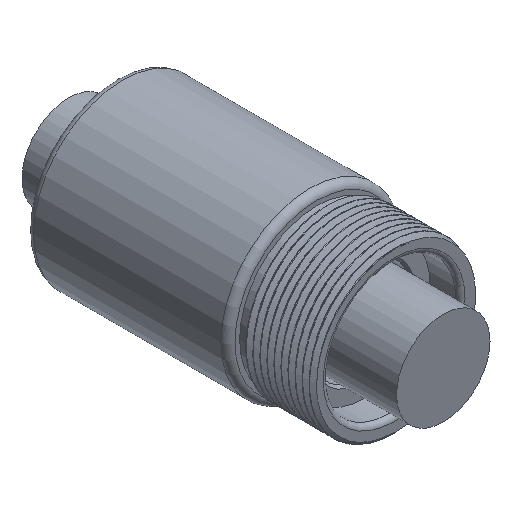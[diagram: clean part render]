
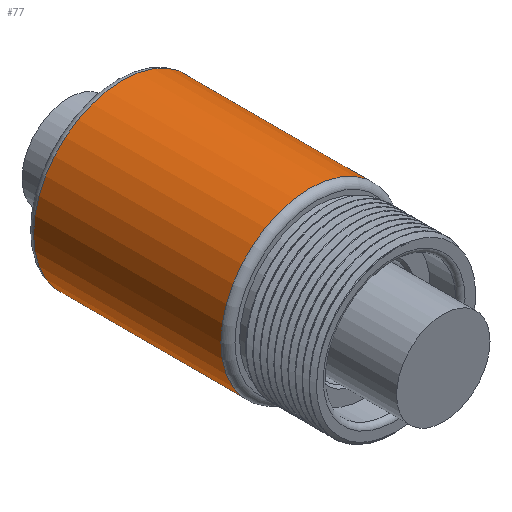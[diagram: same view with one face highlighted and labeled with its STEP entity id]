
A CAD part, isometric view. The second image highlights one B-rep face of the part: STEP entity #77.
In plain terms, the highlighted cylindrical face has radius 19 mm (diameter 38 mm), a full revolution.
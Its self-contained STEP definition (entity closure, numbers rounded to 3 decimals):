
#77=ADVANCED_FACE('',(#108,#109),#99,.T.);
#99=CYLINDRICAL_SURFACE('',#330,19.);
#108=FACE_BOUND('',#146,.T.);
#109=FACE_BOUND('',#147,.T.);
#146=EDGE_LOOP('',(#188));
#147=EDGE_LOOP('',(#189));
#188=ORIENTED_EDGE('',*,*,#272,.T.);
#189=ORIENTED_EDGE('',*,*,#273,.T.);
#246=VERTEX_POINT('',#466);
#247=VERTEX_POINT('',#468);
#272=EDGE_CURVE('',#246,#246,#302,.T.);
#273=EDGE_CURVE('',#247,#247,#303,.T.);
#302=CIRCLE('',#328,19.);
#303=CIRCLE('',#329,19.);
#328=AXIS2_PLACEMENT_3D('',#465,#379,#380);
#329=AXIS2_PLACEMENT_3D('',#467,#381,#382);
#330=AXIS2_PLACEMENT_3D('',#469,#383,#384);
#379=DIRECTION('',(0.,-1.,0.));
#380=DIRECTION('',(0.,0.,-1.));
#381=DIRECTION('',(0.,1.,0.));
#382=DIRECTION('',(0.,0.,-1.));
#383=DIRECTION('',(0.,1.,0.));
#384=DIRECTION('',(0.,0.,1.));
#465=CARTESIAN_POINT('',(0.,58.,0.));
#466=CARTESIAN_POINT('',(0.,58.,-19.));
#467=CARTESIAN_POINT('',(0.,18.,0.));
#468=CARTESIAN_POINT('',(0.,18.,-19.));
#469=CARTESIAN_POINT('',(0.,0.,0.));
